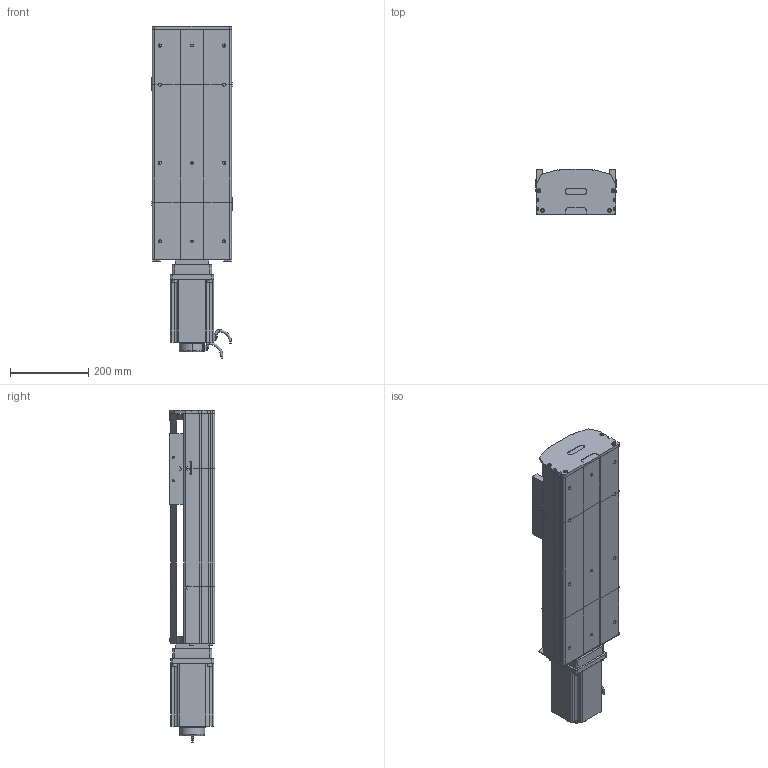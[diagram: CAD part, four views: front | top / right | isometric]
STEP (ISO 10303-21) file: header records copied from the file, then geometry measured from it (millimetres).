
FILE_DESCRIPTION (( 'STEP AP214' ), '1' );
FILE_NAME ('D20 TSH MD S300.STEP', '2010-06-30T08:27:49', ( 'Conseil Régional Haute-Normandie' ), ( 'Conseil Régional Haute-Normandie' ), 'SwSTEP 2.0', 'SolidWorks 2010', '' );
FILE_SCHEMA (( 'AUTOMOTIVE_DESIGN' ));
Length unit declared in the file: millimetre
Products named in the file (33): couvercle D20 S300_Default; rail + arbre  D20 S300; corp D20 S300_Default; Moteur motionking 110BLDC170A-640x; Plaque racord D20_Default; couvercle head l D20_Default; Arbre+rail head D20; course D20 L300_Default; D20 TSH MD S300; plaque de  bout head MD D20_Default; corpl head MD D20_Default; head MD D20_Default; plaque de  bout tail D20_Default; Arbre+rail tail D20; tete d''axe haut D20; vis M8 L12_Default; clavette; avant 110BLDC170A-630x; corps 110BLDC170A-630x; couvercle tail D20_Default; vis M5 L25_Default; chariot D20S_Default; vis M5 L8 90°_Default; 2 vis M5 L12_Default; tete d''axe bas D20; corpl tail D20 +100_Default; tail D20 +100_Default; vis M5 L12_Default; guide D20; Chariot D20; Conecteur_Default; Conecteur2_Default; codeur 110BLDC170A-630x
Assembly tree (56 placements, depth 4):
  D20 TSH MD S300
    course D20 L300_Default
      corp D20 S300_Default
      couvercle D20 S300_Default
      rail + arbre  D20 S300
    tail D20 +100_Default
      Arbre+rail tail D20
      vis M5 L8 90°_Default  x2
      couvercle tail D20_Default
      2 vis M5 L12_Default  x4
      plaque de  bout tail D20_Default
      vis M5 L25_Default  x2
      corpl tail D20 +100_Default
      tete d''axe haut D20
      tete d''axe bas D20
    head MD D20_Default
      couvercle head l D20_Default
      vis M5 L12_Default  x4
      vis M5 L25_Default  x2
      vis M8 L12_Default  x4
      2 vis M5 L12_Default  x6
      plaque de  bout head MD D20_Default
      Arbre+rail head D20
      Moteur motionking 110BLDC170A-640x
        Conecteur2_Default
        corps 110BLDC170A-630x
        Conecteur_Default
        clavette
        codeur 110BLDC170A-630x
        avant 110BLDC170A-630x
      corpl head MD D20_Default
      Plaque racord D20_Default
    chariot D20S_Default
      vis M5 L12_Default  x4
      guide D20  x2
      Chariot D20
Bounding box: 206 x 115.7 x 848.5 mm (x, y, z)
Volume: 7742237.3 mm3; surface area: 1487362.4 mm2
Topology: 81 solids, 81 shells, 2196 faces, 5469 edges, 3537 vertices
Faces by surface type: plane 1340, cylinder 580, bspline 136, torus 73, cone 67
Entity records: 71260 total; most frequent: CARTESIAN_POINT 23479, ORIENTED_EDGE 8342, DIRECTION 7818, EDGE_CURVE 4171, VECTOR 2818, LINE 2818, VERTEX_POINT 2749, AXIS2_PLACEMENT_3D 2500
